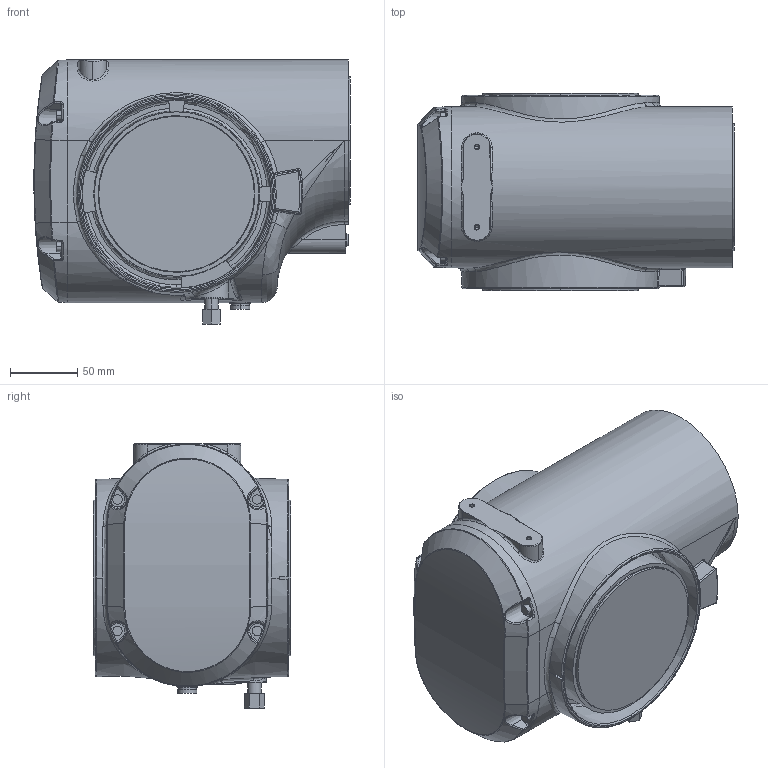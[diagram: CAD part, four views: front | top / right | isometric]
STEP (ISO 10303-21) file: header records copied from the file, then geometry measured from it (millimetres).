
FILE_DESCRIPTION (( 'STEP AP214' ), '1' );
FILE_NAME ('IRB1300 Type A_7&12Kg-1400-Foundry-BTM_OC_00_link3.STEP', '2026-05-19T12:06:29', ( '' ), ( '' ), 'SwSTEP 2.0', 'SolidWorks 2024', '' );
FILE_SCHEMA (( 'AUTOMOTIVE_DESIGN' ));
Length unit declared in the file: millimetre
Products named in the file (1): IRB1300 Type A_7&12Kg-1400-Foundry-BTM_OC_00_link3
Bounding box: 236 x 147 x 197 mm (x, y, z)
Volume: 4420580.3 mm3; surface area: 193104.9 mm2
Topology: 1 solids, 2 shells, 377 faces, 939 edges, 572 vertices
Faces by surface type: bspline 118, plane 91, cylinder 65, torus 57, cone 32, sphere 14
Entity records: 25134 total; most frequent: CARTESIAN_POINT 17109, ORIENTED_EDGE 1852, DIRECTION 1476, EDGE_CURVE 926, AXIS2_PLACEMENT_3D 615, VERTEX_POINT 572, EDGE_LOOP 396, ADVANCED_FACE 377
